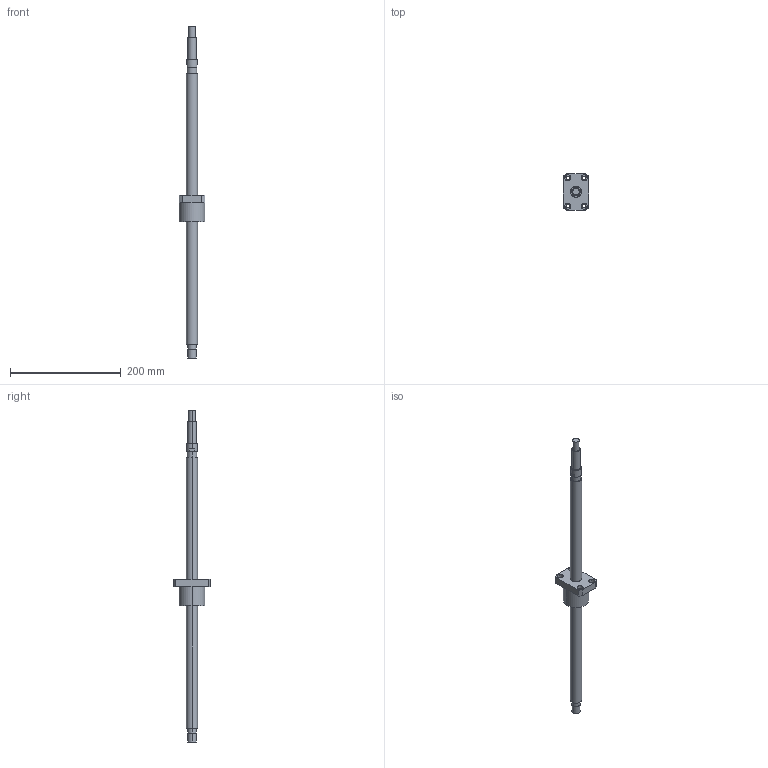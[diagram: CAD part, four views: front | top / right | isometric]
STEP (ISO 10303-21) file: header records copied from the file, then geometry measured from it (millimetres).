
FILE_DESCRIPTION((''),'2;1');
FILE_NAME('R20-10K3-FSC-489-599','2008-04-03T',('wcwu'),(''),'PRO/ENGINEER BY PARAMETRIC TECHNOLOGY CORPORATION, 2005070','PRO/ENGINEER BY PARAMETRIC TECHNOLOGY CORPORATION, 2005070','');
FILE_SCHEMA(('CONFIG_CONTROL_DESIGN'));
Length unit declared in the file: millimetre
Products named in the file (1): R20-10K3-FSC-489-599
Bounding box: 46 x 66 x 599 mm (x, y, z)
Volume: 252479.5 mm3; surface area: 48123.8 mm2
Topology: 1 solids, 1 shells, 65 faces, 146 edges, 96 vertices
Faces by surface type: cylinder 40, plane 25
Entity records: 1906 total; most frequent: DIRECTION 360, CARTESIAN_POINT 307, ORIENTED_EDGE 292, AXIS2_PLACEMENT_3D 149, EDGE_CURVE 146, VERTEX_POINT 96, EDGE_LOOP 86, CIRCLE 84
